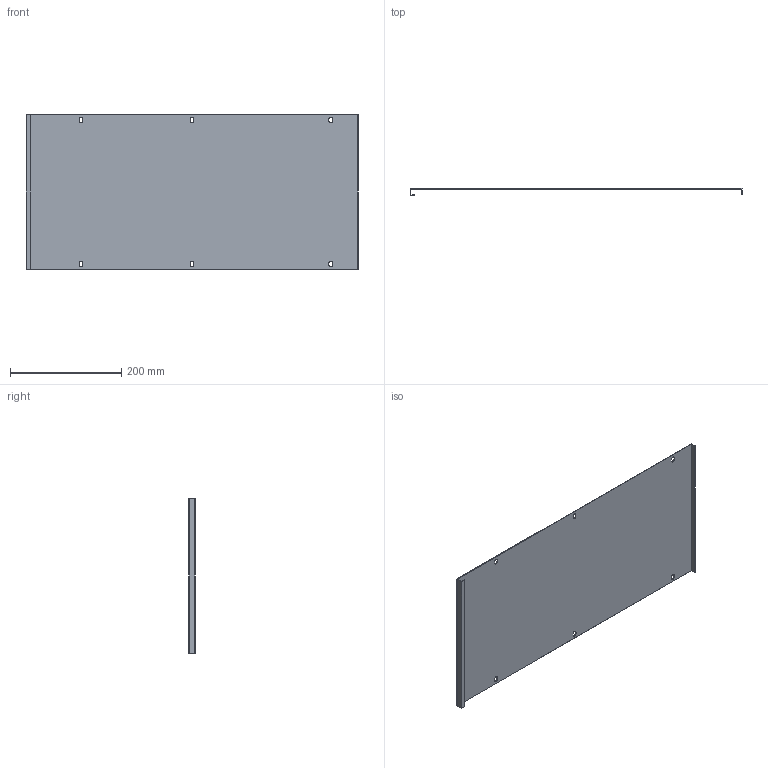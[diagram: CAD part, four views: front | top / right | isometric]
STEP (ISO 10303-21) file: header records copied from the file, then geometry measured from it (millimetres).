
FILE_DESCRIPTION (( 'STEP AP214' ), '1' );
FILE_NAME ('FO-00-PVS-060-040 Ïëàñòðîí ãëóõîé âíóòðåííèé 600õ400.STEP', '2025-08-26T08:33:53', ( '' ), ( '' ), 'SwSTEP 2.0', 'SolidWorks 2023', '' );
FILE_SCHEMA (( 'AUTOMOTIVE_DESIGN' ));
Length unit declared in the file: millimetre
Products named in the file (1): FO-00-PVS-060-040 Пластрон глухой внутренний 600х400
Bounding box: 598 x 12.5 x 279 mm (x, y, z)
Volume: 260608.6 mm3; surface area: 350439.1 mm2
Topology: 1 solids, 1 shells, 52 faces, 150 edges, 100 vertices
Faces by surface type: plane 34, cylinder 18
Entity records: 1757 total; most frequent: CARTESIAN_POINT 303, ORIENTED_EDGE 300, DIRECTION 292, EDGE_CURVE 150, VECTOR 114, LINE 114, VERTEX_POINT 100, AXIS2_PLACEMENT_3D 89
